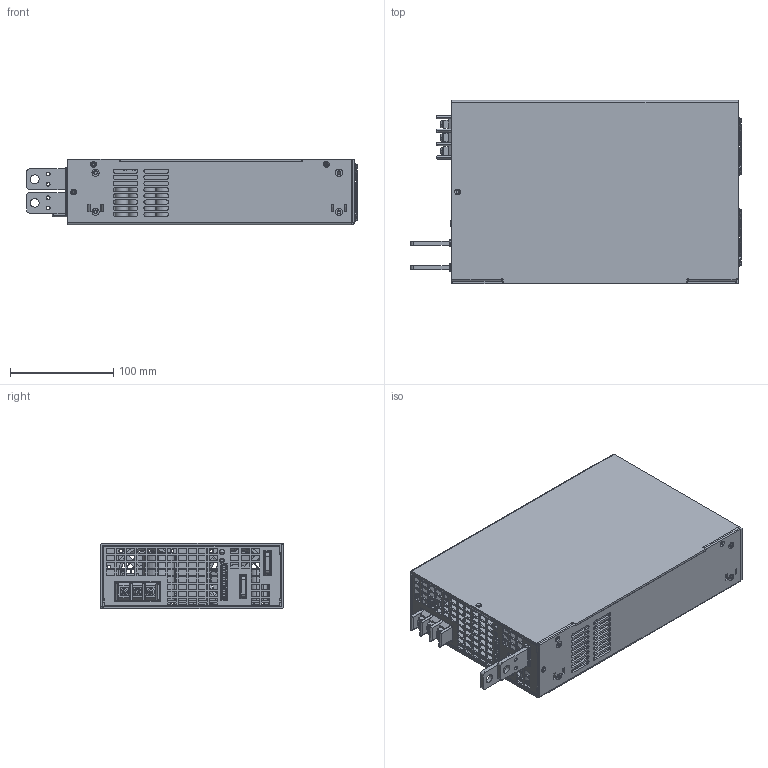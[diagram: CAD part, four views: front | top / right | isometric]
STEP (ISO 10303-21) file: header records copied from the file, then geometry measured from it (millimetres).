
FILE_DESCRIPTION(('Creo Elements/Direct Modeling STEP Export'),'2;1');
FILE_NAME('RSP-2400.stp','2024-06-25T17:39:34',(''),(''),'PTC Creo Elements/Direct Modeling STEP processor for AP214 (Solid Model)','PTC Creo Elements/Direct Modeling 19.0 09-May-2014 (C) Parametric Technology GmbH','');
FILE_SCHEMA(('AUTOMOTIVE_DESIGN { 1 0 10303 214 1 1 1 1 }'));
Length unit declared in the file: millimetre
Products named in the file (33): fan_a.1.1; FAN; FAN_4715KL40WB30_2; FAN-ALL; ÙñÛ¯; ÊW£\; ff.1.1.1.1.1.1.2; ÊW£\COVER; ˋ°Ûy; M3-7L.1.2; ÊU£\base; ¯¥£\.1; GG.2.1.1; CU1.1.2; a1.1; pcb.1; pcb; pcb2; VR.1.1; p1; p2; JS100107; JS100107.1.1; 1.2; JS100107.1.1.1; led.1.1.1; pcb-2; JJ.1; ÇÀÛy; a2
Assembly tree (58 placements, depth 4):
  ÙñÛ¯
    FAN-ALL  x2
      FAN_4715KL40WB30_2
      FAN
    fan_a.1.1  x2
  ÊW£\COVER
    ff.1.1.1.1.1.1.2  x4
    ÊW£\
  ÊU£\base
    M3-7L.1.2  x7
    ff.1.1.1.1.1.1.2  x8
    ˋ°Ûy
  ¯¥£\.1
  a2
    ÇÀÛy
      JJ.1
    pcb-2
      VR.1.1  x3
      led.1.1.1
      JS100107.1.1.1  x2
        1.2
        p1
      JS100107.1.1  x2
        p2
        p1
      JS100107
        p2  x4
        p1
      pcb2
    pcb
      pcb.1
    a1.1  x2
      CU1.1.2
      GG.2.1.1
Bounding box: 321.24 x 177.8 x 63.5 mm (x, y, z)
Volume: 579351.4 mm3; surface area: 493076 mm2
Topology: 56 solids, 58 shells, 2782 faces, 7525 edges, 4828 vertices
Faces by surface type: plane 1634, cylinder 712, torus 170, cone 122, bspline 120, sphere 24
Entity records: 74604 total; most frequent: CARTESIAN_POINT 28591, ORIENTED_EDGE 9744, DIRECTION 8175, EDGE_CURVE 4876, VECTOR 3181, LINE 3181, VERTEX_POINT 3150, AXIS2_PLACEMENT_3D 2497
